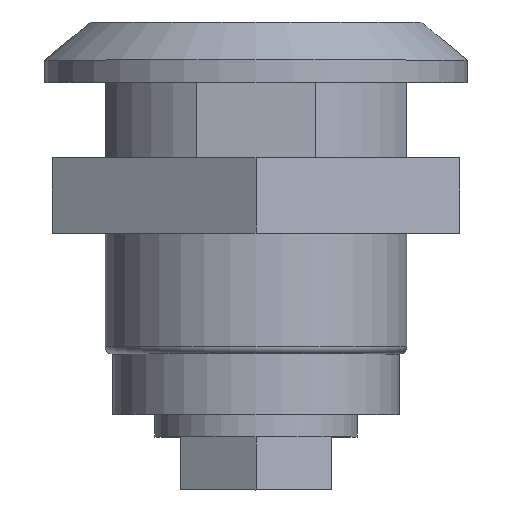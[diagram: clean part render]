
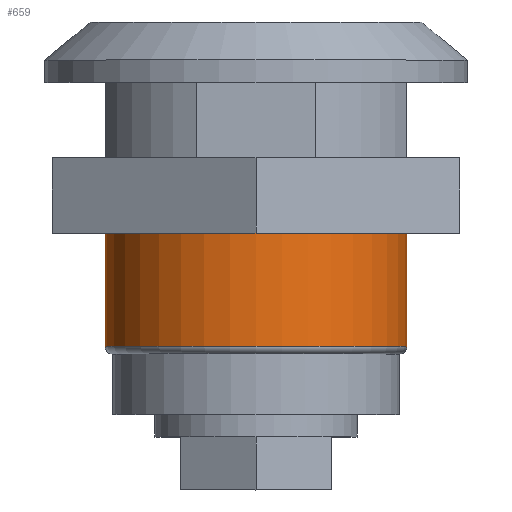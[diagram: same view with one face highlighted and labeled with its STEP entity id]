
A CAD part, top view. The second image highlights one B-rep face of the part: STEP entity #659.
In plain terms, the highlighted cylindrical face has radius 10 mm (diameter 20 mm), a full revolution.
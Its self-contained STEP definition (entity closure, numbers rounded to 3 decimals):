
#40 = EDGE_LOOP ( 'NONE', ( #216 ) ) ;
#71 = FACE_OUTER_BOUND ( 'NONE', #737, .T. ) ;
#215 = DIRECTION ( 'NONE',  ( 0., 0., -1. ) ) ;
#216 = ORIENTED_EDGE ( 'NONE', *, *, #1285, .T. ) ;
#264 = CIRCLE ( 'NONE', #1187, 10. ) ;
#265 = DIRECTION ( 'NONE',  ( 0., -1., 0. ) ) ;
#365 = DIRECTION ( 'NONE',  ( 0., 0., -1. ) ) ;
#407 = EDGE_CURVE ( 'NONE', #1037, #1037, #1246, .T. ) ;
#452 = DIRECTION ( 'NONE',  ( 0., -1., 0. ) ) ;
#501 = CARTESIAN_POINT ( 'NONE',  ( 0., 0.5, 0. ) ) ;
#520 = AXIS2_PLACEMENT_3D ( 'NONE', #501, #749, #1297 ) ;
#596 = ORIENTED_EDGE ( 'NONE', *, *, #407, .T. ) ;
#659 = ADVANCED_FACE ( 'NONE', ( #71, #1256 ), #1633, .T. ) ;
#726 = CARTESIAN_POINT ( 'NONE',  ( 0., 0., 0. ) ) ;
#737 = EDGE_LOOP ( 'NONE', ( #596 ) ) ;
#749 = DIRECTION ( 'NONE',  ( 0., 1., 0. ) ) ;
#769 = CARTESIAN_POINT ( 'NONE',  ( 0., 8., -10. ) ) ;
#1037 = VERTEX_POINT ( 'NONE', #1659 ) ;
#1187 = AXIS2_PLACEMENT_3D ( 'NONE', #1552, #265, #365 ) ;
#1246 = CIRCLE ( 'NONE', #520, 10. ) ;
#1256 = FACE_OUTER_BOUND ( 'NONE', #40, .T. ) ;
#1285 = EDGE_CURVE ( 'NONE', #1648, #1648, #264, .T. ) ;
#1297 = DIRECTION ( 'NONE',  ( 0., 0., -1. ) ) ;
#1303 = AXIS2_PLACEMENT_3D ( 'NONE', #726, #452, #215 ) ;
#1552 = CARTESIAN_POINT ( 'NONE',  ( 0., 8., 0. ) ) ;
#1633 = CYLINDRICAL_SURFACE ( 'NONE', #1303, 10. ) ;
#1648 = VERTEX_POINT ( 'NONE', #769 ) ;
#1659 = CARTESIAN_POINT ( 'NONE',  ( 0., 0.5, -10. ) ) ;
